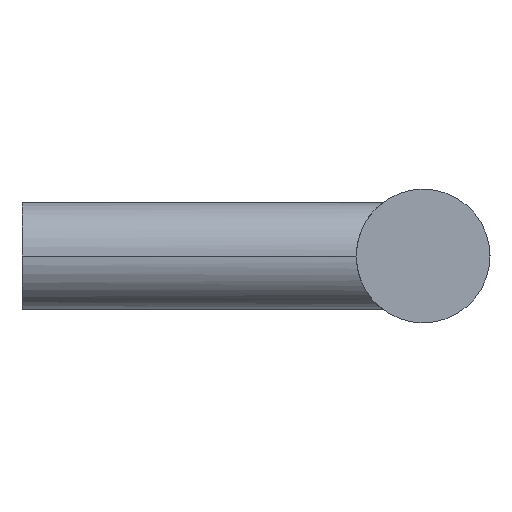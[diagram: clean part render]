
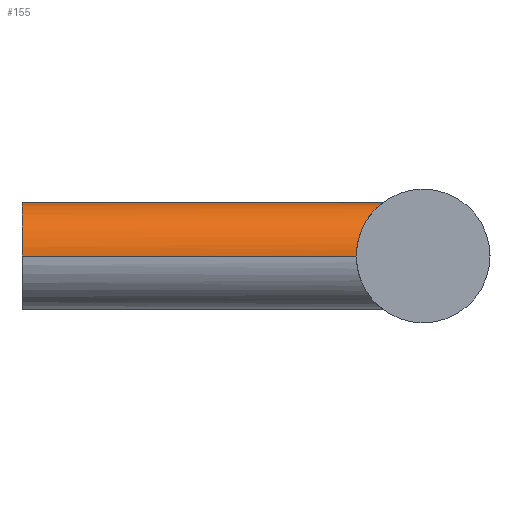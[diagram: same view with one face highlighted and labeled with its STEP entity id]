
A CAD part, left-side view. The second image highlights one B-rep face of the part: STEP entity #155.
In plain terms, the highlighted cylindrical face has radius 4 mm (diameter 8 mm), a partial arc.
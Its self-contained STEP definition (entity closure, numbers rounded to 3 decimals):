
#121 = VERTEX_POINT( '', #282 );
#129 = EDGE_CURVE( '', #121, #211, #290, .T. );
#135 = EDGE_CURVE( '', #211, #229, #297, .T. );
#155 = ADVANCED_FACE( '', ( #321 ), #322, .T. );
#159 = EDGE_CURVE( '', #229, #199, #326, .T. );
#173 = EDGE_CURVE( '', #199, #179, #340, .T. );
#179 = VERTEX_POINT( '', #348 );
#199 = VERTEX_POINT( '', #373 );
#211 = VERTEX_POINT( '', #386 );
#229 = VERTEX_POINT( '', #404 );
#233 = EDGE_CURVE( '', #179, #121, #411, .T. );
#282 = CARTESIAN_POINT( '', ( 4., -25., 0. ) );
#290 = B_SPLINE_CURVE_WITH_KNOTS( '', 3, ( #467, #468, #469, #470, #471, #472, #473, #474, #475, #476, #477, #478, #479, #480, #481, #482, #483, #484 ), .UNSPECIFIED., .F., .F., ( 4, 2, 2, 2, 2, 2, 2, 2, 4 ), ( 19.381, 20.176, 20.97, 21.765, 22.56, 23.38, 24.201, 25.021, 25.841 ), .UNSPECIFIED. );
#297 = B_SPLINE_CURVE_WITH_KNOTS( '', 3, ( #494, #495, #496, #497, #498, #499, #500, #501, #502, #503, #504, #505, #506, #507, #508, #509, #510, #511 ), .UNSPECIFIED., .F., .F., ( 4, 2, 2, 2, 2, 2, 2, 2, 4 ), ( 0., 0.82, 1.641, 2.461, 3.281, 4.076, 4.871, 5.666, 6.46 ), .UNSPECIFIED. );
#321 = FACE_OUTER_BOUND( '', #541, .T. );
#322 = CYLINDRICAL_SURFACE( '', #542, 4. );
#326 = LINE( '', #547, #548 );
#340 = CIRCLE( '', #600, 4. );
#348 = CARTESIAN_POINT( '', ( 4., 0., 0. ) );
#373 = CARTESIAN_POINT( '', ( -4., 0., 0. ) );
#386 = CARTESIAN_POINT( '', ( 0., -27., 4. ) );
#404 = CARTESIAN_POINT( '', ( -4., -25., 0. ) );
#411 = LINE( '', #752, #753 );
#467 = CARTESIAN_POINT( '', ( 4., -25., 0. ) );
#468 = CARTESIAN_POINT( '', ( 4., -25., 0.265 ) );
#469 = CARTESIAN_POINT( '', ( 3.973, -25.021, 0.535 ) );
#470 = CARTESIAN_POINT( '', ( 3.865, -25.107, 1.064 ) );
#471 = CARTESIAN_POINT( '', ( 3.784, -25.171, 1.323 ) );
#472 = CARTESIAN_POINT( '', ( 3.575, -25.333, 1.813 ) );
#473 = CARTESIAN_POINT( '', ( 3.447, -25.431, 2.045 ) );
#474 = CARTESIAN_POINT( '', ( 3.158, -25.645, 2.468 ) );
#475 = CARTESIAN_POINT( '', ( 2.997, -25.761, 2.66 ) );
#476 = CARTESIAN_POINT( '', ( 2.654, -25.996, 3.002 ) );
#477 = CARTESIAN_POINT( '', ( 2.459, -26.124, 3.165 ) );
#478 = CARTESIAN_POINT( '', ( 2.035, -26.379, 3.453 ) );
#479 = CARTESIAN_POINT( '', ( 1.807, -26.505, 3.578 ) );
#480 = CARTESIAN_POINT( '', ( 1.324, -26.728, 3.784 ) );
#481 = CARTESIAN_POINT( '', ( 1.07, -26.825, 3.864 ) );
#482 = CARTESIAN_POINT( '', ( 0.545, -26.962, 3.972 ) );
#483 = CARTESIAN_POINT( '', ( 0.273, -27., 4. ) );
#484 = CARTESIAN_POINT( '', ( 0., -27., 4. ) );
#494 = CARTESIAN_POINT( '', ( 0., -27., 4. ) );
#495 = CARTESIAN_POINT( '', ( -0.273, -27., 4. ) );
#496 = CARTESIAN_POINT( '', ( -0.545, -26.962, 3.972 ) );
#497 = CARTESIAN_POINT( '', ( -1.07, -26.825, 3.864 ) );
#498 = CARTESIAN_POINT( '', ( -1.324, -26.728, 3.784 ) );
#499 = CARTESIAN_POINT( '', ( -1.807, -26.505, 3.578 ) );
#500 = CARTESIAN_POINT( '', ( -2.035, -26.379, 3.453 ) );
#501 = CARTESIAN_POINT( '', ( -2.459, -26.124, 3.165 ) );
#502 = CARTESIAN_POINT( '', ( -2.654, -25.996, 3.002 ) );
#503 = CARTESIAN_POINT( '', ( -2.997, -25.761, 2.66 ) );
#504 = CARTESIAN_POINT( '', ( -3.158, -25.645, 2.468 ) );
#505 = CARTESIAN_POINT( '', ( -3.447, -25.431, 2.045 ) );
#506 = CARTESIAN_POINT( '', ( -3.575, -25.333, 1.813 ) );
#507 = CARTESIAN_POINT( '', ( -3.784, -25.171, 1.323 ) );
#508 = CARTESIAN_POINT( '', ( -3.865, -25.107, 1.064 ) );
#509 = CARTESIAN_POINT( '', ( -3.973, -25.021, 0.535 ) );
#510 = CARTESIAN_POINT( '', ( -4., -25., 0.265 ) );
#511 = CARTESIAN_POINT( '', ( -4., -25., 0. ) );
#541 = EDGE_LOOP( '', ( #835, #836, #837, #838, #839 ) );
#542 = AXIS2_PLACEMENT_3D( '', #840, #841, #842 );
#547 = CARTESIAN_POINT( '', ( -4., 0., 0. ) );
#548 = VECTOR( '', #843, 1. );
#600 = AXIS2_PLACEMENT_3D( '', #848, #849, #850 );
#752 = CARTESIAN_POINT( '', ( 4., 0., 0. ) );
#753 = VECTOR( '', #941, 1. );
#835 = ORIENTED_EDGE( '', *, *, #233, .F. );
#836 = ORIENTED_EDGE( '', *, *, #173, .F. );
#837 = ORIENTED_EDGE( '', *, *, #159, .F. );
#838 = ORIENTED_EDGE( '', *, *, #135, .F. );
#839 = ORIENTED_EDGE( '', *, *, #129, .F. );
#840 = CARTESIAN_POINT( '', ( 0., 0., 0. ) );
#841 = DIRECTION( '', ( 0., 1., 0. ) );
#842 = DIRECTION( '', ( 1., 0., 0. ) );
#843 = DIRECTION( '', ( 0., 1., 0. ) );
#848 = CARTESIAN_POINT( '', ( 0., 0., 0. ) );
#849 = DIRECTION( '', ( 0., 1., 0. ) );
#850 = DIRECTION( '', ( 1., 0., 0. ) );
#941 = DIRECTION( '', ( 0., -1., 0. ) );
